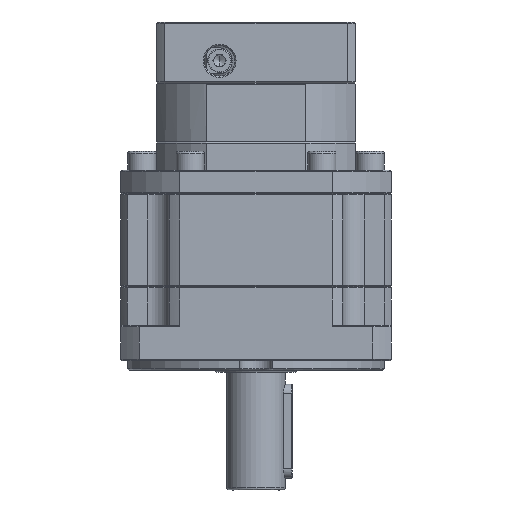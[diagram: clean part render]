
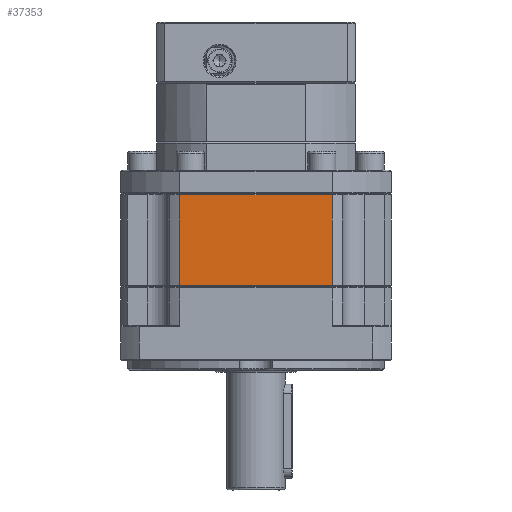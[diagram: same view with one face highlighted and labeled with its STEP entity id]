
A CAD part, front view. The second image highlights one B-rep face of the part: STEP entity #37353.
In plain terms, the highlighted planar face has unit normal (0, -1, 0).
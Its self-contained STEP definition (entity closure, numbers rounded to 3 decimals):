
#904 = DIRECTION ( 'NONE',  ( -1., 0., 0. ) ) ;
#2621 = CARTESIAN_POINT ( 'NONE',  ( 32.802, 5.019, -85.327 ) ) ;
#5442 = VERTEX_POINT ( 'NONE', #25043 ) ;
#6060 = EDGE_CURVE ( 'NONE', #37897, #5442, #60099, .T. ) ;
#8120 = EDGE_LOOP ( 'NONE', ( #103710, #91640, #36890, #8247 ) ) ;
#8247 = ORIENTED_EDGE ( 'NONE', *, *, #31632, .F. ) ;
#21456 = PLANE ( 'NONE',  #111102 ) ;
#25043 = CARTESIAN_POINT ( 'NONE',  ( 32.802, 5.019, -123.827 ) ) ;
#30418 = LINE ( 'NONE', #34016, #132236 ) ;
#31632 = EDGE_CURVE ( 'NONE', #5442, #132052, #62517, .T. ) ;
#34016 = CARTESIAN_POINT ( 'NONE',  ( 97.602, 5.019, -84.827 ) ) ;
#35140 = DIRECTION ( 'NONE',  ( -1., 0., 0. ) ) ;
#35614 = VECTOR ( 'NONE', #73058, 1000. ) ;
#36784 = VECTOR ( 'NONE', #35140, 1000. ) ;
#36890 = ORIENTED_EDGE ( 'NONE', *, *, #125784, .F. ) ;
#37353 = ADVANCED_FACE ( 'NONE', ( #127372 ), #21456, .F. ) ;
#37897 = VERTEX_POINT ( 'NONE', #132625 ) ;
#43742 = DIRECTION ( 'NONE',  ( 0., 0., -1. ) ) ;
#57782 = EDGE_CURVE ( 'NONE', #82000, #37897, #30418, .T. ) ;
#60099 = LINE ( 'NONE', #98995, #36784 ) ;
#61349 = CARTESIAN_POINT ( 'NONE',  ( 65.202, 5.019, -85.327 ) ) ;
#62517 = LINE ( 'NONE', #105260, #99271 ) ;
#63827 = DIRECTION ( 'NONE',  ( 0., 0., 1. ) ) ;
#73058 = DIRECTION ( 'NONE',  ( 1., 0., 0. ) ) ;
#78736 = CARTESIAN_POINT ( 'NONE',  ( 97.602, 5.019, -85.327 ) ) ;
#82000 = VERTEX_POINT ( 'NONE', #78736 ) ;
#91640 = ORIENTED_EDGE ( 'NONE', *, *, #57782, .F. ) ;
#98995 = CARTESIAN_POINT ( 'NONE',  ( 122.702, 5.019, -123.827 ) ) ;
#99271 = VECTOR ( 'NONE', #63827, 1000. ) ;
#103710 = ORIENTED_EDGE ( 'NONE', *, *, #6060, .F. ) ;
#105260 = CARTESIAN_POINT ( 'NONE',  ( 32.802, 5.019, -84.827 ) ) ;
#111102 = AXIS2_PLACEMENT_3D ( 'NONE', #119342, #119814, #904 ) ;
#119342 = CARTESIAN_POINT ( 'NONE',  ( 122.702, 5.019, -84.827 ) ) ;
#119814 = DIRECTION ( 'NONE',  ( 0., 1., 0. ) ) ;
#125784 = EDGE_CURVE ( 'NONE', #132052, #82000, #127406, .T. ) ;
#127372 = FACE_OUTER_BOUND ( 'NONE', #8120, .T. ) ;
#127406 = LINE ( 'NONE', #61349, #35614 ) ;
#132052 = VERTEX_POINT ( 'NONE', #2621 ) ;
#132236 = VECTOR ( 'NONE', #43742, 1000. ) ;
#132625 = CARTESIAN_POINT ( 'NONE',  ( 97.602, 5.019, -123.827 ) ) ;
